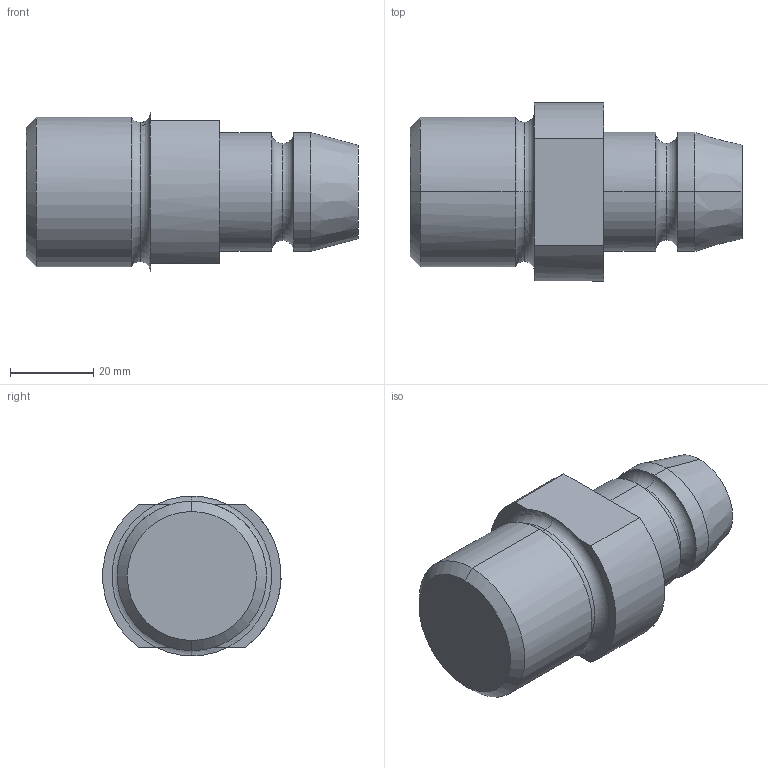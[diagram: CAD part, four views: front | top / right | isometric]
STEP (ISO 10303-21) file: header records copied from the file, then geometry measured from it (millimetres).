
FILE_DESCRIPTION(('CATIA V5 STEP Exchange'),'2;1');
FILE_NAME('C:\Users\Utente\Desktop\IO LAVORO\3D X SITO CF\X SITO\PLASTICA\AGS\AGS3421M36.stp','2021-02-21T19:41:45+00:00',('none'),('none'),'CATIA Version 5 Release 20 GA (IN-10)','CATIA V5 STEP AP203','none');
FILE_SCHEMA(('CONFIG_CONTROL_DESIGN'));
Length unit declared in the file: millimetre
Products named in the file (1): AGS3421M36
Bounding box: 80 x 42.91 x 38.5 mm (x, y, z)
Volume: 70636.5 mm3; surface area: 11020.1 mm2
Topology: 1 solids, 1 shells, 29 faces, 76 edges, 50 vertices
Faces by surface type: plane 9, cylinder 8, torus 8, cone 4
Entity records: 994 total; most frequent: CARTESIAN_POINT 256, ORIENTED_EDGE 152, DIRECTION 123, EDGE_CURVE 76, AXIS2_PLACEMENT_3D 73, VERTEX_POINT 50, CIRCLE 43, EDGE_LOOP 30
